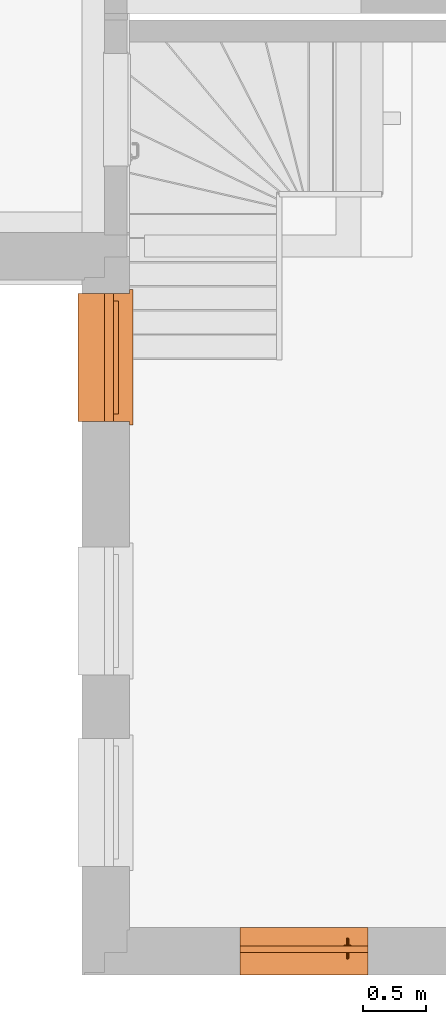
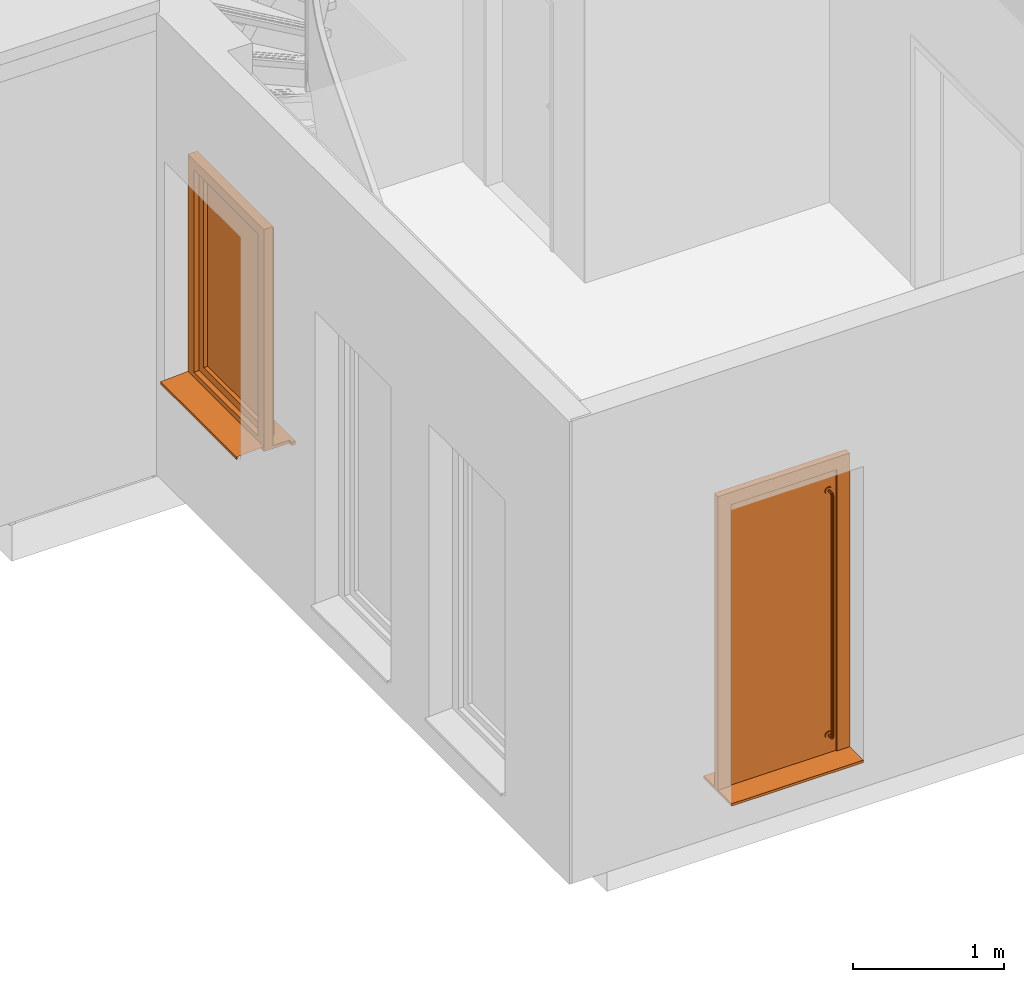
# One storey, part 17 of 28: 2 proxies.
"""IFC4 building model written with IfcOpenShell, lengths in metres."""

from ifc_helpers import new_model, entity, si_unit, converted_unit, derived_unit, direction, frame, origin_with_axes, place, context, subcontext, project, spatial, triangles, type_object, element, save


model = new_model("IFC4")

# Units and contexts
model_context = context("Model", 3, precision=1e-05, world=origin_with_axes(), true_north=direction((-0.526213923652, 0.850352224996)))
body_context = subcontext(model_context, "Body", "Model", "MODEL_VIEW")
ifc_project = project(units=[si_unit("LENGTHUNIT", "METRE"), si_unit("AREAUNIT", "SQUARE_METRE"), si_unit("VOLUMEUNIT", "CUBIC_METRE"), converted_unit("PLANEANGLEUNIT", "DEGREE", entity("IfcPlaneAngleMeasure", 0.0174532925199), si_unit("PLANEANGLEUNIT", "RADIAN"), dimensions=[0, 0, 0, 0, 0, 0, 0]), si_unit("SOLIDANGLEUNIT", "STERADIAN"), converted_unit("TIMEUNIT", "Year", entity("IfcTimeMeasure", 31556926.0), si_unit("TIMEUNIT", "SECOND"), dimensions=[0, 0, 1, 0, 0, 0, 0]), si_unit("MASSUNIT", "GRAM", prefix="KILO"), si_unit("THERMODYNAMICTEMPERATUREUNIT", "DEGREE_CELSIUS"), si_unit("LUMINOUSINTENSITYUNIT", "LUMEN"), si_unit("ENERGYUNIT", "JOULE", prefix="MEGA"), derived_unit("THERMALCONDUCTANCEUNIT", [(si_unit("POWERUNIT", "WATT"), 1), (si_unit("LENGTHUNIT", "METRE"), -1), (si_unit("THERMODYNAMICTEMPERATUREUNIT", "KELVIN"), -1)]), derived_unit("SPECIFICHEATCAPACITYUNIT", [(si_unit("ENERGYUNIT", "JOULE"), 1), (si_unit("MASSUNIT", "GRAM", prefix="KILO"), -1), (si_unit("THERMODYNAMICTEMPERATUREUNIT", "KELVIN"), -1)]), derived_unit("MASSDENSITYUNIT", [(si_unit("MASSUNIT", "GRAM", prefix="KILO"), 1), (si_unit("VOLUMEUNIT", "CUBIC_METRE"), -1)])], contexts=[model_context])

# Site, building, storey
site_placement = place(None, origin_with_axes())
site = spatial("IfcSite", under=ifc_project, at=site_placement, Name="Gelände", CompositionType="ELEMENT")
building_placement = place(site_placement, origin_with_axes())
building = spatial("IfcBuilding", under=site, at=building_placement, Name="Haus vom Nikolaus", CompositionType="ELEMENT")
storey_placement = place(building_placement, origin_with_axes())
storey = spatial("IfcBuildingStorey", under=building, at=storey_placement, Name="EG", CompositionType="ELEMENT", Elevation=0.0)

# Proxies
building_element_proxy_type_1 = type_object("IfcBuildingElementProxyType", Name="Eingangstür 02 1 22", PredefinedType="NOTDEFINED")
proxy_1_placement = place(storey_placement, frame((1.1303938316, 0.259832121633, 0.2), z_axis=(0.0, 0.0, 1.0), x_axis=(1.0, 0.0, 0.0)))
element("IfcBuildingElementProxy", 1, at=proxy_1_placement, inside=storey, type_object=building_element_proxy_type_1, Name="Tür-003", PredefinedType="NOTDEFINED", context=body_context, shape_type="Tessellation", body=[
    triangles([(0.0, -0.37498, 0.0), (0.0, -0.36, 0.02), (0.0, -0.36, 0.0), (0.0, -0.37498, 0.02), (1.01, -0.36, 0.0), (1.01, -0.36, 0.02), (1.01, -0.37498, 0.0), (1.01, -0.37498, 0.02)], [[1, 2, 3], [1, 4, 2], [5, 2, 6], [5, 3, 2], [7, 3, 5], [7, 1, 3], [7, 4, 1], [7, 8, 4], [4, 6, 2], [4, 8, 6], [8, 5, 6], [8, 7, 5]], closed=True),
    triangles([(0.0, -0.36, 0.02), (0.0, -0.195, 0.0), (0.0, -0.36, 0.0), (0.0, -0.195, 0.02), (0.91, -0.145, 0.0), (0.1, -0.145, 0.0), (1.01, -0.015, 0.0), (0.0, -0.015, 0.0), (1.01, -0.145, 0.0), (0.0, -0.145, 0.0), (1.01, -0.36, 0.0), (0.1, -0.195, 0.0), (0.91, -0.195, 0.0), (1.01, -0.195, 0.0), (1.01, -0.36, 0.02), (0.91, -0.195, 0.02), (0.1, -0.195, 0.02), (1.01, -0.195, 0.02), (1.01, -0.015, 0.02), (0.1, -0.145, 0.02), (0.91, -0.145, 0.02), (1.01, -0.145, 0.02), (0.0, -0.015, 0.02), (0.0, -0.145, 0.02)], [[1, 2, 3], [1, 4, 2], [5, 6, 7], [7, 6, 8], [5, 7, 9], [8, 6, 10], [11, 12, 13], [13, 12, 5], [6, 5, 12], [11, 13, 14], [3, 12, 11], [2, 12, 3], [11, 1, 3], [11, 15, 1], [16, 17, 15], [15, 17, 1], [16, 15, 18], [1, 17, 4], [19, 20, 21], [21, 20, 16], [17, 16, 20], [19, 21, 22], [23, 20, 19], [24, 20, 23], [2, 17, 12], [2, 4, 17], [12, 20, 6], [12, 17, 20], [20, 10, 6], [20, 24, 10], [8, 24, 23], [8, 10, 24], [7, 23, 19], [7, 8, 23], [7, 22, 9], [7, 19, 22], [5, 22, 21], [5, 9, 22], [13, 21, 16], [13, 5, 21], [14, 16, 18], [14, 13, 16], [15, 14, 18], [15, 11, 14]], closed=True),
    triangles([(1.01, -2e-05, 0.02), (0.0, -0.015, 0.02), (1.01, -0.015, 0.02), (0.0, -2e-05, 0.02), (1.01, -0.015, 0.0), (0.0, -0.015, 0.0), (1.01, -2e-05, 0.0), (0.0, -2e-05, 0.0)], [[1, 2, 3], [1, 4, 2], [5, 2, 6], [5, 3, 2], [7, 3, 5], [7, 1, 3], [7, 4, 1], [7, 8, 4], [4, 6, 2], [4, 8, 6], [8, 5, 6], [8, 7, 5]], closed=True),
    triangles([(0.0, -0.185, 2.4), (0.0, -0.195, 0.0), (0.0, -0.195, 2.4), (0.0, -0.185, 0.0), (0.1, -0.195, 2.3), (0.4049, -0.195, 2.3), (0.1, -0.195, 0.0), (0.5049, -0.195, 2.3), (1.01, -0.195, 2.4), (0.91, -0.195, 2.3), (1.01, -0.195, 0.0), (0.91, -0.195, 0.0), (1.01, -0.185, 2.4), (0.1, -0.185, 2.3), (0.1, -0.185, 0.0), (0.91, -0.185, 2.3), (1.01, -0.185, 0.0), (0.91, -0.185, 0.0), (0.5049, -0.185, 2.3), (0.4049, -0.185, 2.3)], [[1, 2, 3], [1, 4, 2], [3, 2, 5], [6, 3, 5], [5, 2, 7], [8, 3, 6], [3, 8, 9], [9, 8, 10], [11, 9, 10], [11, 10, 12], [13, 3, 9], [13, 1, 3], [14, 15, 4], [16, 17, 18], [19, 13, 16], [17, 16, 13], [20, 1, 19], [13, 19, 1], [14, 1, 20], [1, 14, 4], [4, 7, 2], [4, 15, 7], [15, 5, 7], [15, 14, 5], [14, 6, 5], [14, 20, 6], [20, 8, 6], [20, 19, 8], [19, 10, 8], [19, 16, 10], [16, 12, 10], [16, 18, 12], [18, 11, 12], [18, 17, 11], [17, 9, 11], [17, 13, 9]], closed=True),
    triangles([(0.0, -0.145, 2.4), (0.0, -0.185, 0.0), (0.0, -0.185, 2.4), (0.0, -0.145, 0.0), (0.1, -0.185, 2.3), (0.4049, -0.185, 2.3), (0.1, -0.185, 0.0), (0.5049, -0.185, 2.3), (1.01, -0.185, 2.4), (0.91, -0.185, 2.3), (1.01, -0.185, 0.0), (0.91, -0.185, 0.0), (1.01, -0.145, 2.4), (0.1, -0.145, 2.3), (0.1, -0.145, 0.0), (0.91, -0.145, 2.3), (1.01, -0.145, 0.0), (0.91, -0.145, 0.0), (0.5049, -0.145, 2.3), (0.4049, -0.145, 2.3)], [[1, 2, 3], [1, 4, 2], [3, 2, 5], [6, 3, 5], [5, 2, 7], [8, 3, 6], [3, 8, 9], [9, 8, 10], [11, 9, 10], [11, 10, 12], [13, 3, 9], [13, 1, 3], [14, 15, 4], [16, 17, 18], [19, 13, 16], [17, 16, 13], [20, 1, 19], [13, 19, 1], [14, 1, 20], [1, 14, 4], [4, 7, 2], [4, 15, 7], [15, 5, 7], [15, 14, 5], [14, 6, 5], [14, 20, 6], [20, 8, 6], [20, 19, 8], [19, 10, 8], [19, 16, 10], [16, 12, 10], [16, 18, 12], [18, 11, 12], [18, 17, 11], [17, 9, 11], [17, 13, 9]], closed=True),
    triangles([(0.91, -0.185, 0.02), (0.1, -0.145, 0.02), (0.91, -0.145, 0.02), (0.1, -0.185, 0.02), (0.1, -0.185, 2.3), (0.1, -0.145, 2.3), (0.91, -0.145, 2.3), (0.91, -0.185, 2.3)], [[1, 2, 3], [2, 1, 4], [2, 5, 6], [2, 4, 5], [7, 2, 6], [7, 3, 2], [7, 1, 3], [7, 8, 1], [8, 4, 1], [8, 5, 4], [6, 8, 7], [6, 5, 8]], closed=True),
    triangles([(0.842928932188, -0.225930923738, 0.162928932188), (0.85, -0.195, 0.16), (0.85, -0.226316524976, 0.16), (0.842928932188, -0.195, 0.162928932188), (0.857071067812, -0.225930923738, 0.162928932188), (0.857071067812, -0.195, 0.162928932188), (0.842928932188, -0.236160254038, 0.165669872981), (0.85, -0.237676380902, 0.163043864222), (0.84, -0.225, 0.17), (0.84, -0.195, 0.17), (0.86, -0.195, 0.17), (0.85, -0.195, 0.18), (0.857071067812, -0.195, 0.177071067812), (0.842928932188, -0.195, 0.177071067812), (0.86, -0.225, 0.17), (0.857071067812, -0.236160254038, 0.165669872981), (0.85, -0.246956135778, 0.172323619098), (0.842928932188, -0.244330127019, 0.173839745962), (0.84, -0.2325, 0.172009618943), (0.842928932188, -0.224069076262, 0.177071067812), (0.85, -0.223683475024, 0.18), (0.857071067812, -0.224069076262, 0.177071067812), (0.86, -0.2325, 0.172009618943), (0.857071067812, -0.244330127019, 0.173839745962), (0.85, -0.25, 0.183683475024), (0.842928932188, -0.247071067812, 0.184069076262), (0.84, -0.237990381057, 0.1775), (0.842928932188, -0.228839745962, 0.178349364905), (0.85, -0.227323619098, 0.180975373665), (0.857071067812, -0.228839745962, 0.178349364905), (0.86, -0.237990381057, 0.1775), (0.857071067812, -0.247071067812, 0.184069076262), (0.842928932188, -0.247071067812, 2.13593092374), (0.85, -0.25, 2.13631652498), (0.84, -0.24, 0.185), (0.842928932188, -0.231650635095, 0.181160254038), (0.85, -0.229024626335, 0.182676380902), (0.857071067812, -0.231650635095, 0.181160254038), (0.86, -0.24, 0.185), (0.857071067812, -0.247071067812, 2.13593092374), (0.842928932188, -0.244330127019, 2.14616025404), (0.85, -0.246956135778, 2.1476763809), (0.84, -0.24, 2.135), (0.842928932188, -0.232928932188, 0.185930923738), (0.85, -0.23, 0.186316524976), (0.857071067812, -0.232928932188, 0.185930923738), (0.86, -0.24, 2.135), (0.857071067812, -0.244330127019, 2.14616025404), (0.842928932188, -0.236160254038, 2.15433012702), (0.85, -0.237676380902, 2.15695613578), (0.84, -0.237990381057, 2.1425), (0.842928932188, -0.232928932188, 2.13406907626), (0.85, -0.23, 2.13368347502), (0.857071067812, -0.232928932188, 2.13406907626), (0.86, -0.237990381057, 2.1425), (0.857071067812, -0.236160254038, 2.15433012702), (0.85, -0.226316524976, 2.16), (0.842928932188, -0.225930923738, 2.15707106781), (0.84, -0.2325, 2.14799038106), (0.842928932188, -0.231650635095, 2.13883974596), (0.85, -0.229024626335, 2.1373236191), (0.857071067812, -0.231650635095, 2.13883974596), (0.86, -0.2325, 2.14799038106), (0.857071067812, -0.225930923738, 2.15707106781), (0.85, -0.195, 2.16), (0.842928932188, -0.195, 2.15707106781), (0.84, -0.225, 2.15), (0.842928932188, -0.228839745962, 2.14165063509), (0.85, -0.227323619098, 2.13902462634), (0.857071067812, -0.228839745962, 2.14165063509), (0.86, -0.225, 2.15), (0.857071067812, -0.195, 2.15707106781), (0.84, -0.195, 2.15), (0.842928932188, -0.195, 2.14292893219), (0.85, -0.195, 2.14), (0.857071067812, -0.195, 2.14292893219), (0.86, -0.195, 2.15), (0.842928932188, -0.224069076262, 2.14292893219), (0.85, -0.223683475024, 2.14), (0.857071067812, -0.224069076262, 2.14292893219)], [[1, 2, 3], [1, 4, 2], [2, 5, 3], [5, 2, 6], [7, 3, 8], [7, 1, 3], [9, 4, 1], [9, 10, 4], [11, 12, 13], [12, 4, 14], [14, 4, 10], [12, 6, 4], [6, 12, 11], [4, 6, 2], [6, 15, 5], [15, 6, 11], [3, 16, 8], [16, 3, 5], [7, 17, 18], [17, 7, 8], [19, 1, 7], [19, 9, 1], [20, 10, 9], [20, 14, 10], [21, 14, 20], [21, 12, 14], [13, 21, 22], [21, 13, 12], [11, 22, 15], [22, 11, 13], [5, 23, 16], [23, 5, 15], [8, 24, 17], [24, 8, 16], [18, 25, 26], [25, 18, 17], [27, 7, 18], [27, 19, 7], [28, 9, 19], [28, 20, 9], [29, 20, 28], [29, 21, 20], [22, 29, 30], [29, 22, 21], [15, 30, 23], [30, 15, 22], [24, 23, 31], [24, 16, 23], [25, 24, 32], [25, 17, 24], [33, 25, 34], [33, 26, 25], [27, 26, 35], [26, 27, 18], [36, 19, 27], [36, 28, 19], [29, 36, 37], [36, 29, 28], [38, 29, 37], [38, 30, 29], [38, 23, 30], [23, 38, 31], [32, 31, 39], [32, 24, 31], [34, 32, 40], [34, 25, 32], [41, 34, 42], [41, 33, 34], [35, 33, 43], [33, 35, 26], [36, 35, 44], [35, 36, 27], [37, 44, 45], [44, 37, 36], [46, 37, 45], [46, 38, 37], [39, 31, 38], [39, 38, 46], [40, 39, 47], [40, 32, 39], [34, 48, 42], [48, 34, 40], [49, 42, 50], [49, 41, 42], [51, 33, 41], [51, 43, 33], [52, 35, 43], [52, 44, 35], [53, 44, 52], [53, 45, 44], [54, 45, 53], [54, 46, 45], [47, 46, 54], [47, 39, 46], [40, 55, 48], [55, 40, 47], [50, 48, 56], [50, 42, 48], [49, 57, 58], [57, 49, 50], [51, 49, 59], [49, 51, 41], [60, 43, 51], [60, 52, 43], [61, 52, 60], [61, 53, 52], [54, 61, 62], [61, 54, 53], [47, 62, 55], [62, 47, 54], [56, 55, 63], [56, 48, 55], [57, 56, 64], [57, 50, 56], [58, 65, 66], [65, 58, 57], [59, 58, 67], [58, 59, 49], [68, 51, 59], [68, 60, 51], [69, 60, 68], [69, 61, 60], [62, 69, 70], [69, 62, 61], [70, 55, 62], [55, 70, 63], [64, 63, 71], [64, 56, 63], [65, 64, 72], [65, 57, 64], [73, 72, 74], [75, 72, 76], [76, 72, 77], [66, 72, 73], [74, 72, 75], [72, 66, 65], [67, 66, 73], [66, 67, 58], [68, 67, 78], [67, 68, 59], [69, 78, 79], [78, 69, 68], [80, 69, 79], [80, 70, 69], [71, 63, 70], [71, 70, 80], [72, 71, 77], [72, 64, 71], [77, 80, 76], [77, 71, 80], [76, 79, 75], [76, 80, 79], [79, 74, 75], [74, 79, 78], [78, 73, 74], [73, 78, 67]], closed=True),
    triangles([(0.877, -0.194, 0.17), (0.873382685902, -0.185, 0.1565), (0.877, -0.185, 0.17), (0.873382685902, -0.194, 0.1565), (0.8635, -0.194, 0.146617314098), (0.8635, -0.185, 0.146617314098), (0.873382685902, -0.185, 0.1835), (0.873382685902, -0.194, 0.1835), (0.8635, -0.194, 0.193382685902), (0.823, -0.194, 0.17), (0.8365, -0.194, 0.193382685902), (0.85, -0.194, 0.197), (0.826617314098, -0.194, 0.1835), (0.8365, -0.194, 0.146617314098), (0.826617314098, -0.194, 0.1565), (0.85, -0.194, 0.143), (0.85, -0.185, 0.143), (0.8635, -0.185, 0.193382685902), (0.85, -0.185, 0.197), (0.8365, -0.185, 0.193382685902), (0.826617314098, -0.185, 0.1835), (0.823, -0.185, 0.17), (0.826617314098, -0.185, 0.1565), (0.8365, -0.185, 0.146617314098)], [[1, 2, 3], [2, 1, 4], [2, 5, 6], [2, 4, 5], [7, 1, 3], [7, 8, 1], [9, 10, 1], [11, 9, 12], [9, 1, 8], [10, 11, 13], [14, 10, 15], [11, 10, 9], [16, 10, 14], [5, 10, 16], [4, 1, 5], [10, 5, 1], [6, 16, 17], [6, 5, 16], [18, 8, 7], [18, 9, 8], [19, 9, 18], [19, 12, 9], [20, 12, 19], [20, 11, 12], [21, 11, 20], [21, 13, 11], [22, 13, 21], [22, 10, 13], [23, 10, 22], [23, 15, 10], [24, 15, 23], [24, 14, 15], [16, 24, 17], [24, 16, 14]], closed=False),
    triangles([(0.877, -0.185, 2.15), (0.873382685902, -0.194, 2.1365), (0.873382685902, -0.185, 2.1365), (0.877, -0.194, 2.15), (0.8635, -0.194, 2.1266173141), (0.8635, -0.185, 2.1266173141), (0.873382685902, -0.185, 2.1635), (0.873382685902, -0.194, 2.1635), (0.826617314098, -0.194, 2.1635), (0.8365, -0.194, 2.1266173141), (0.8365, -0.194, 2.1733826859), (0.8635, -0.194, 2.1733826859), (0.85, -0.194, 2.177), (0.823, -0.194, 2.15), (0.826617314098, -0.194, 2.1365), (0.85, -0.194, 2.123), (0.85, -0.185, 2.123), (0.8635, -0.185, 2.1733826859), (0.85, -0.185, 2.177), (0.8365, -0.185, 2.1733826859), (0.826617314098, -0.185, 2.1635), (0.823, -0.185, 2.15), (0.826617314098, -0.185, 2.1365), (0.8365, -0.185, 2.1266173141)], [[1, 2, 3], [1, 4, 2], [3, 5, 6], [3, 2, 5], [7, 4, 1], [7, 8, 4], [9, 10, 11], [11, 12, 13], [12, 4, 8], [10, 9, 14], [11, 10, 12], [10, 14, 15], [5, 12, 10], [5, 10, 16], [2, 4, 5], [12, 5, 4], [6, 16, 17], [6, 5, 16], [18, 8, 7], [18, 12, 8], [19, 12, 18], [19, 13, 12], [20, 13, 19], [20, 11, 13], [21, 11, 20], [21, 9, 11], [22, 9, 21], [22, 14, 9], [23, 14, 22], [23, 15, 14], [24, 15, 23], [24, 10, 15], [17, 10, 24], [17, 16, 10]], closed=False),
    triangles([(0.842928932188, -0.104069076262, 0.162928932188), (0.85, -0.135, 0.16), (0.842928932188, -0.135, 0.162928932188), (0.85, -0.103683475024, 0.16), (0.842928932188, -0.135, 0.177071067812), (0.85, -0.135, 0.18), (0.857071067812, -0.135, 0.162928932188), (0.857071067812, -0.135, 0.177071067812), (0.86, -0.135, 0.17), (0.84, -0.135, 0.17), (0.84, -0.105, 0.17), (0.842928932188, -0.0938397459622, 0.165669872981), (0.85, -0.0923236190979, 0.163043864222), (0.857071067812, -0.104069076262, 0.162928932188), (0.86, -0.105, 0.17), (0.857071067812, -0.105930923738, 0.177071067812), (0.85, -0.106316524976, 0.18), (0.842928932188, -0.105930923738, 0.177071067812), (0.84, -0.0975, 0.172009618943), (0.842928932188, -0.0856698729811, 0.173839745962), (0.85, -0.0830438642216, 0.172323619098), (0.857071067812, -0.0938397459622, 0.165669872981), (0.86, -0.0975, 0.172009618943), (0.857071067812, -0.101160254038, 0.178349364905), (0.85, -0.102676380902, 0.180975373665), (0.842928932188, -0.101160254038, 0.178349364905), (0.84, -0.0920096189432, 0.1775), (0.85, -0.08, 0.183683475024), (0.842928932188, -0.0829289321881, 0.184069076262), (0.857071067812, -0.0856698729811, 0.173839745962), (0.86, -0.0920096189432, 0.1775), (0.857071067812, -0.0983493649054, 0.181160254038), (0.85, -0.100975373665, 0.182676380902), (0.842928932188, -0.0983493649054, 0.181160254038), (0.84, -0.09, 0.185), (0.85, -0.08, 2.13631652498), (0.842928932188, -0.0829289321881, 2.13593092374), (0.857071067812, -0.0829289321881, 0.184069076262), (0.86, -0.09, 0.185), (0.857071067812, -0.0970710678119, 0.185930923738), (0.85, -0.1, 0.186316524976), (0.842928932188, -0.0970710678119, 0.185930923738), (0.84, -0.09, 2.135), (0.842928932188, -0.0856698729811, 2.14616025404), (0.85, -0.0830438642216, 2.1476763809), (0.857071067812, -0.0829289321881, 2.13593092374), (0.86, -0.09, 2.135), (0.857071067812, -0.0970710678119, 2.13406907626), (0.85, -0.1, 2.13368347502), (0.842928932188, -0.0970710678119, 2.13406907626), (0.84, -0.0920096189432, 2.1425), (0.842928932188, -0.0938397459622, 2.15433012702), (0.85, -0.0923236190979, 2.15695613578), (0.857071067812, -0.0856698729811, 2.14616025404), (0.86, -0.0920096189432, 2.1425), (0.857071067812, -0.0983493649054, 2.13883974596), (0.85, -0.100975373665, 2.1373236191), (0.842928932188, -0.0983493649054, 2.13883974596), (0.84, -0.0975, 2.14799038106), (0.85, -0.103683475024, 2.16), (0.842928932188, -0.104069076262, 2.15707106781), (0.857071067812, -0.0938397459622, 2.15433012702), (0.86, -0.0975, 2.14799038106), (0.857071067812, -0.101160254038, 2.14165063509), (0.85, -0.102676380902, 2.13902462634), (0.842928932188, -0.101160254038, 2.14165063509), (0.84, -0.105, 2.15), (0.85, -0.135, 2.16), (0.842928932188, -0.135, 2.15707106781), (0.857071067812, -0.104069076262, 2.15707106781), (0.86, -0.105, 2.15), (0.857071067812, -0.105930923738, 2.14292893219), (0.85, -0.106316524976, 2.14), (0.842928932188, -0.105930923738, 2.14292893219), (0.84, -0.135, 2.15), (0.842928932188, -0.135, 2.14292893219), (0.857071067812, -0.135, 2.15707106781), (0.857071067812, -0.135, 2.14292893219), (0.86, -0.135, 2.15), (0.85, -0.135, 2.14)], [[1, 2, 3], [1, 4, 2], [5, 2, 6], [6, 7, 8], [8, 7, 9], [3, 5, 10], [7, 6, 2], [5, 3, 2], [11, 3, 10], [11, 1, 3], [12, 4, 1], [12, 13, 4], [14, 2, 4], [2, 14, 7], [15, 7, 14], [7, 15, 9], [16, 9, 15], [9, 16, 8], [17, 8, 16], [8, 17, 6], [17, 5, 6], [17, 18, 5], [18, 10, 5], [18, 11, 10], [19, 1, 11], [19, 12, 1], [20, 13, 12], [20, 21, 13], [22, 4, 13], [4, 22, 14], [23, 14, 22], [14, 23, 15], [24, 15, 23], [15, 24, 16], [25, 16, 24], [16, 25, 17], [25, 18, 17], [25, 26, 18], [26, 11, 18], [26, 19, 11], [20, 19, 27], [19, 20, 12], [28, 20, 29], [20, 28, 21], [21, 22, 13], [21, 30, 22], [31, 23, 30], [30, 23, 22], [23, 32, 24], [32, 23, 31], [32, 25, 24], [32, 33, 25], [34, 25, 33], [25, 34, 26], [27, 26, 34], [26, 27, 19], [29, 27, 35], [27, 29, 20], [36, 29, 37], [29, 36, 28], [28, 30, 21], [28, 38, 30], [39, 31, 38], [38, 31, 30], [39, 40, 32], [39, 32, 31], [40, 33, 32], [40, 41, 33], [42, 33, 41], [33, 42, 34], [35, 34, 42], [34, 35, 27], [43, 29, 35], [43, 37, 29], [44, 36, 37], [44, 45, 36], [28, 36, 38], [46, 38, 36], [47, 38, 46], [38, 47, 39], [48, 39, 47], [39, 48, 40], [40, 48, 41], [49, 41, 48], [50, 41, 49], [41, 50, 42], [50, 35, 42], [50, 43, 35], [51, 37, 43], [51, 44, 37], [52, 45, 44], [52, 53, 45], [54, 36, 45], [36, 54, 46], [55, 46, 54], [46, 55, 47], [56, 47, 55], [47, 56, 48], [57, 48, 56], [48, 57, 49], [57, 50, 49], [57, 58, 50], [58, 43, 50], [58, 51, 43], [52, 51, 59], [51, 52, 44], [60, 52, 61], [52, 60, 53], [62, 45, 53], [45, 62, 54], [63, 55, 62], [62, 55, 54], [55, 64, 56], [64, 55, 63], [65, 56, 64], [56, 65, 57], [66, 57, 65], [57, 66, 58], [66, 51, 58], [66, 59, 51], [61, 59, 67], [59, 61, 52], [68, 61, 69], [61, 68, 60], [60, 62, 53], [60, 70, 62], [71, 63, 70], [70, 63, 62], [71, 72, 64], [71, 64, 63], [72, 65, 64], [72, 73, 65], [74, 65, 73], [65, 74, 66], [67, 66, 74], [66, 67, 59], [69, 67, 75], [67, 69, 61], [76, 77, 75], [77, 76, 78], [77, 69, 75], [77, 78, 79], [78, 76, 80], [69, 77, 68], [77, 70, 68], [68, 70, 60], [79, 71, 77], [77, 71, 70], [78, 72, 79], [79, 72, 71], [80, 73, 78], [78, 73, 72], [76, 73, 80], [73, 76, 74], [75, 74, 76], [74, 75, 67]], closed=True),
    triangles([(0.877, -0.145, 0.17), (0.873382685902, -0.136, 0.1565), (0.877, -0.136, 0.17), (0.873382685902, -0.145, 0.1565), (0.85, -0.136, 0.143), (0.823, -0.136, 0.17), (0.8635, -0.136, 0.146617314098), (0.8365, -0.136, 0.146617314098), (0.8365, -0.136, 0.193382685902), (0.826617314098, -0.136, 0.1835), (0.826617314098, -0.136, 0.1565), (0.8635, -0.136, 0.193382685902), (0.85, -0.136, 0.197), (0.873382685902, -0.136, 0.1835), (0.873382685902, -0.145, 0.1835), (0.8635, -0.145, 0.146617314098), (0.85, -0.145, 0.143), (0.8365, -0.145, 0.146617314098), (0.826617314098, -0.145, 0.1565), (0.823, -0.145, 0.17), (0.826617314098, -0.145, 0.1835), (0.8365, -0.145, 0.193382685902), (0.85, -0.145, 0.197), (0.8635, -0.145, 0.193382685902)], [[1, 2, 3], [1, 4, 2], [5, 6, 3], [5, 3, 7], [7, 3, 2], [6, 5, 8], [9, 6, 10], [6, 8, 11], [12, 6, 9], [12, 9, 13], [14, 3, 12], [6, 12, 3], [15, 3, 14], [15, 1, 3], [4, 7, 2], [4, 16, 7], [16, 5, 7], [16, 17, 5], [17, 8, 5], [17, 18, 8], [18, 11, 8], [18, 19, 11], [19, 6, 11], [19, 20, 6], [20, 10, 6], [20, 21, 10], [21, 9, 10], [21, 22, 9], [22, 13, 9], [22, 23, 13], [23, 12, 13], [23, 24, 12], [24, 14, 12], [24, 15, 14]], closed=False),
    triangles([(0.877, -0.145, 2.15), (0.873382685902, -0.136, 2.1365), (0.877, -0.136, 2.15), (0.873382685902, -0.145, 2.1365), (0.8365, -0.136, 2.1733826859), (0.823, -0.136, 2.15), (0.826617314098, -0.136, 2.1635), (0.8365, -0.136, 2.1266173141), (0.8635, -0.136, 2.1266173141), (0.85, -0.136, 2.123), (0.826617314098, -0.136, 2.1365), (0.85, -0.136, 2.177), (0.8635, -0.136, 2.1733826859), (0.873382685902, -0.136, 2.1635), (0.873382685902, -0.145, 2.1635), (0.8635, -0.145, 2.1266173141), (0.85, -0.145, 2.123), (0.8365, -0.145, 2.1266173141), (0.826617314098, -0.145, 2.1365), (0.823, -0.145, 2.15), (0.826617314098, -0.145, 2.1635), (0.8365, -0.145, 2.1733826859), (0.85, -0.145, 2.177), (0.8635, -0.145, 2.1733826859)], [[1, 2, 3], [1, 4, 2], [5, 6, 7], [8, 9, 10], [9, 3, 2], [6, 8, 11], [8, 5, 9], [5, 8, 6], [12, 9, 5], [13, 9, 12], [14, 3, 13], [9, 13, 3], [15, 3, 14], [15, 1, 3], [4, 9, 2], [4, 16, 9], [16, 10, 9], [16, 17, 10], [17, 8, 10], [17, 18, 8], [18, 11, 8], [18, 19, 11], [19, 6, 11], [19, 20, 6], [20, 7, 6], [20, 21, 7], [21, 5, 7], [21, 22, 5], [22, 12, 5], [22, 23, 12], [23, 13, 12], [23, 24, 13], [24, 14, 13], [24, 15, 14]], closed=False),
])
building_element_proxy_type_2 = type_object("IfcBuildingElementProxyType", Name="1-Flügelfenster 22", PredefinedType="NOTDEFINED")
proxy_2_placement = place(storey_placement, frame((0.259738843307, 5.25983212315, 0.8), z_axis=(0.0, 0.0, 1.0), x_axis=(5.17545230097e-05, -0.999999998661, 0.0)))
element("IfcBuildingElementProxy", 2, at=proxy_2_placement, inside=storey, type_object=building_element_proxy_type_2, Name="Fenster-007", PredefinedType="NOTDEFINED", context=body_context, shape_type="Tessellation", body=[
    triangles([(0.0, -0.196, 0.04), (1.01, -0.196, 0.05), (0.0, -0.196, 0.05), (1.01, -0.196, 0.04), (1.01, -0.405, 0.0283333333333), (0.0, -0.405, 0.0283333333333), (0.0, -0.405, 0.00833333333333), (1.01, -0.405, 0.00833333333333), (0.0, -0.395, 0.0183333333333), (1.01, -0.395, 0.0183333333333)], [[1, 2, 3], [1, 4, 2], [5, 1, 6], [1, 5, 4], [7, 5, 6], [7, 8, 5], [9, 8, 7], [9, 10, 8]], closed=False),
    triangles([(0.0, 0.0, 0.025), (0.0, -0.125, 0.0), (0.0, -0.125, 0.025), (0.0, 0.0, 0.0), (1.01, -0.125, 0.0), (1.01, -0.125, 0.025), (-0.03, 0.03, 0.025), (1.01, 0.0, 0.025), (1.04, 0.03, 0.025), (1.04, 0.0, 0.025), (-0.03, 0.0, 0.025), (-0.03, 0.0, 0.0), (-0.03, 0.03, 0.0), (1.01, 0.0, 0.0), (1.04, 0.03, 0.0), (1.04, 0.0, 0.0)], [[1, 2, 3], [1, 4, 2], [3, 5, 6], [3, 2, 5], [7, 8, 9], [1, 6, 8], [9, 8, 10], [11, 1, 7], [6, 1, 3], [7, 1, 8], [11, 4, 1], [11, 12, 4], [12, 13, 4], [14, 15, 16], [15, 4, 13], [4, 5, 2], [5, 4, 14], [15, 14, 4], [6, 14, 8], [6, 5, 14], [8, 16, 10], [8, 14, 16], [10, 15, 9], [10, 16, 15], [9, 13, 7], [9, 15, 13], [7, 12, 11], [7, 13, 12]], closed=True),
    triangles([(1.01, -0.125, 0.0), (0.93, -0.195, 0.08), (0.93, -0.125, 0.08), (1.01, -0.195, 0.0), (0.93, -0.195, 1.72), (1.01, -0.195, 1.8), (0.93, -0.125, 1.72), (1.01, -0.125, 1.8)], [[1, 2, 3], [2, 1, 4], [5, 4, 6], [5, 2, 4], [7, 2, 5], [7, 3, 2], [8, 1, 7], [7, 1, 3], [1, 6, 4], [1, 8, 6], [8, 5, 6], [8, 7, 5]], closed=True),
    triangles([(0.0, -0.125, 1.8), (0.0, -0.195, 0.0), (0.0, -0.195, 1.8), (0.0, -0.125, 0.0), (0.08, -0.195, 1.72), (0.08, -0.195, 0.08), (0.08, -0.125, 1.72), (0.08, -0.125, 0.08)], [[1, 2, 3], [1, 4, 2], [3, 2, 5], [5, 2, 6], [7, 3, 5], [7, 1, 3], [7, 4, 1], [7, 8, 4], [8, 2, 4], [2, 8, 6], [8, 5, 6], [8, 7, 5]], closed=True),
    triangles([(0.0, -0.125, 0.0), (1.01, -0.195, 0.0), (0.0, -0.195, 0.0), (1.01, -0.125, 0.0), (0.505, -0.195, 0.08), (0.93, -0.195, 0.08), (0.08, -0.195, 0.08), (0.08, -0.125, 0.08), (0.505, -0.125, 0.08), (0.93, -0.125, 0.08)], [[1, 2, 3], [1, 4, 2], [3, 2, 5], [5, 2, 6], [3, 5, 7], [8, 3, 7], [8, 1, 3], [9, 1, 8], [10, 4, 9], [1, 9, 4], [4, 6, 2], [4, 10, 6], [9, 6, 10], [6, 9, 5], [9, 7, 5], [9, 8, 7]], closed=True),
    triangles([(1.01, -0.125, 1.8), (0.93, -0.195, 1.72), (0.93, -0.125, 1.72), (1.01, -0.195, 1.8), (0.505, -0.195, 1.72), (0.0, -0.195, 1.8), (0.08, -0.195, 1.72), (0.505, -0.125, 1.72), (0.0, -0.125, 1.8), (0.08, -0.125, 1.72)], [[1, 2, 3], [2, 1, 4], [5, 6, 7], [2, 4, 5], [6, 5, 4], [8, 2, 5], [8, 3, 2], [9, 1, 8], [8, 1, 3], [9, 8, 10], [1, 6, 4], [1, 9, 6], [10, 6, 9], [6, 10, 7], [8, 7, 10], [7, 8, 5]], closed=True),
    triangles([(0.87, -0.085, 0.14), (0.95, -0.125, 0.06), (0.87, -0.125, 0.14), (0.95, -0.085, 0.06), (0.87, -0.125, 1.66), (0.95, -0.125, 1.74), (0.87, -0.085, 1.66), (0.95, -0.085, 1.74)], [[1, 2, 3], [1, 4, 2], [5, 2, 6], [5, 3, 2], [7, 3, 5], [7, 1, 3], [8, 4, 7], [7, 4, 1], [4, 6, 2], [4, 8, 6], [8, 5, 6], [8, 7, 5]], closed=True),
    triangles([(0.14, -0.085, 0.14), (0.06, -0.125, 0.06), (0.06, -0.085, 0.06), (0.14, -0.125, 0.14), (0.06, -0.125, 1.74), (0.06, -0.085, 1.74), (0.14, -0.085, 1.66), (0.14, -0.125, 1.66)], [[1, 2, 3], [1, 4, 2], [3, 5, 6], [3, 2, 5], [7, 3, 6], [7, 1, 3], [7, 4, 1], [7, 8, 4], [5, 2, 8], [8, 2, 4], [5, 7, 6], [7, 5, 8]], closed=True),
    triangles([(0.95, -0.085, 0.06), (0.06, -0.125, 0.06), (0.06, -0.085, 0.06), (0.95, -0.125, 0.06), (0.87, -0.125, 0.14), (0.14, -0.125, 0.14), (0.14, -0.085, 0.14), (0.87, -0.085, 0.14)], [[1, 2, 3], [2, 1, 4], [5, 2, 4], [2, 5, 6], [7, 2, 6], [7, 3, 2], [7, 1, 3], [7, 8, 1], [8, 4, 1], [4, 8, 5], [7, 5, 8], [5, 7, 6]], closed=True),
    triangles([(0.06, -0.125, 1.74), (0.95, -0.085, 1.74), (0.06, -0.085, 1.74), (0.95, -0.125, 1.74), (0.87, -0.085, 1.66), (0.87, -0.125, 1.66), (0.14, -0.085, 1.66), (0.14, -0.125, 1.66)], [[1, 2, 3], [2, 1, 4], [4, 5, 2], [5, 4, 6], [3, 2, 7], [7, 2, 5], [8, 3, 7], [3, 8, 1], [6, 1, 8], [1, 6, 4], [6, 7, 5], [7, 6, 8]], closed=True),
    triangles([(0.87, -0.125, 0.14), (0.93, -0.155, 0.08), (0.87, -0.155, 0.14), (0.93, -0.125, 0.08), (0.87, -0.155, 1.66), (0.93, -0.155, 1.72), (0.87, -0.125, 1.66), (0.93, -0.125, 1.72)], [[1, 2, 3], [1, 4, 2], [5, 2, 6], [5, 3, 2], [7, 3, 5], [7, 1, 3], [8, 4, 7], [7, 4, 1], [4, 6, 2], [4, 8, 6], [7, 6, 8], [6, 7, 5]], closed=True),
    triangles([(0.14, -0.125, 0.14), (0.08, -0.155, 0.08), (0.08, -0.125, 0.08), (0.14, -0.155, 0.14), (0.08, -0.155, 1.72), (0.08, -0.125, 1.72), (0.14, -0.125, 1.66), (0.14, -0.155, 1.66)], [[1, 2, 3], [1, 4, 2], [3, 5, 6], [3, 2, 5], [1, 6, 7], [6, 1, 3], [7, 4, 1], [7, 8, 4], [4, 5, 2], [5, 4, 8], [5, 7, 6], [7, 5, 8]], closed=True),
    triangles([(0.93, -0.125, 0.08), (0.08, -0.155, 0.08), (0.08, -0.125, 0.08), (0.93, -0.155, 0.08), (0.87, -0.155, 0.14), (0.14, -0.155, 0.14), (0.14, -0.125, 0.14), (0.87, -0.125, 0.14)], [[1, 2, 3], [2, 1, 4], [5, 2, 4], [2, 5, 6], [7, 2, 6], [7, 3, 2], [8, 3, 7], [3, 8, 1], [8, 4, 1], [4, 8, 5], [7, 5, 8], [5, 7, 6]], closed=True),
    triangles([(0.08, -0.155, 1.72), (0.93, -0.125, 1.72), (0.08, -0.125, 1.72), (0.93, -0.155, 1.72), (0.87, -0.125, 1.66), (0.87, -0.155, 1.66), (0.14, -0.125, 1.66), (0.14, -0.155, 1.66)], [[1, 2, 3], [2, 1, 4], [4, 5, 2], [5, 4, 6], [5, 3, 2], [3, 5, 7], [7, 1, 3], [7, 8, 1], [6, 1, 8], [1, 6, 4], [5, 8, 7], [5, 6, 8]], closed=True),
    triangles([(0.14, -0.115, 0.14), (0.87, -0.125, 0.14), (0.14, -0.125, 0.14), (0.87, -0.115, 0.14), (0.14, -0.125, 1.66), (0.87, -0.125, 1.66), (0.14, -0.115, 1.66), (0.87, -0.115, 1.66)], [[1, 2, 3], [1, 4, 2], [5, 2, 6], [5, 3, 2], [7, 3, 5], [7, 1, 3], [7, 4, 1], [7, 8, 4], [4, 6, 2], [4, 8, 6], [7, 6, 8], [6, 7, 5]], closed=True),
])

save(model, "model.ifc")
